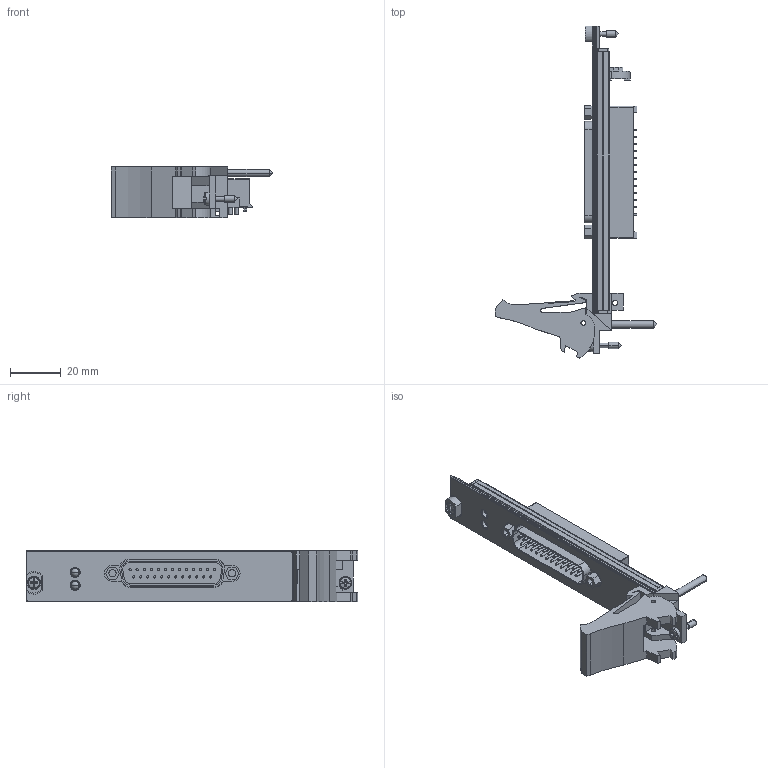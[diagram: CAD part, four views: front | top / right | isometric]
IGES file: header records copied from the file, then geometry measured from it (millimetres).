
Start section:  PTC IGES file: cu_pxie-4141.igs
Global section: file name: cu_pxie-4141.igs; native system: Pro/ENGINEER by Parametric Technology Corporation; preprocessor: 2010230; author: jjorden; organization: Unknown; date: 20110608.163901; units: inch
Bounding box: 63.53 x 130.5 x 20.32 mm (x, y, z)
Surface area: 20318.2 mm2 (no closed solid volume)
Topology: 0 solids, 0 shells, 723 faces, 3704 edges, 3696 vertices
Faces by surface type: bspline 496, revolution 227
